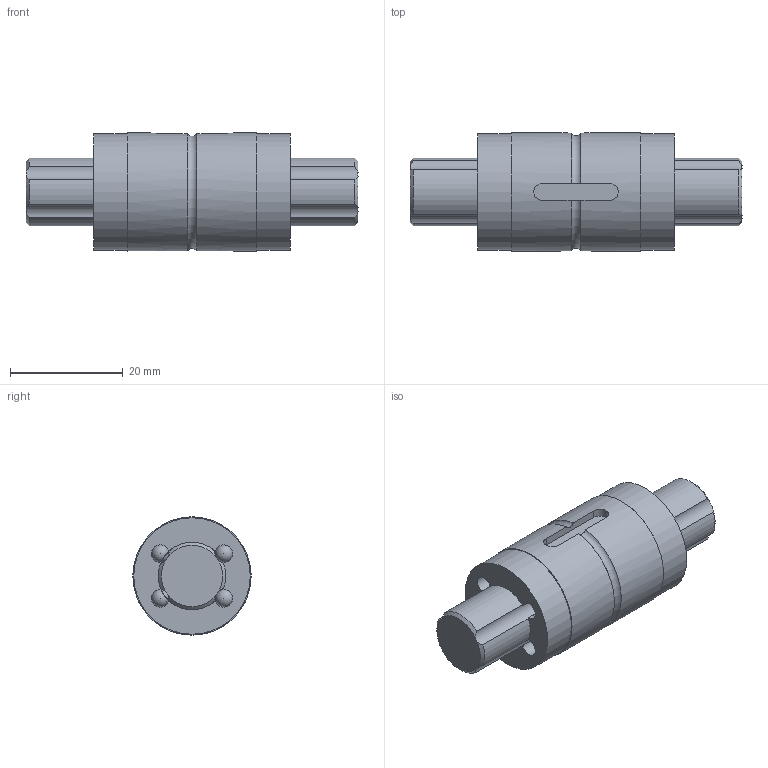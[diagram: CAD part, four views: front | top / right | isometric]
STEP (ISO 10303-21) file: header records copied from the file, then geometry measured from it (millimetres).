
FILE_DESCRIPTION(/* description */ ('Unknown'),/* implementation_level */ '2;1');
FILE_NAME(/* name */ 'TLT012-D-L60',/* time_stamp */ '2024-12-23T10:11:50+08:00',/* author */ ('Unknown'),/* organization */ ('Unknown'),/* preprocessor_version */ 'ST-DEVELOPER v18.102',/* originating_system */ 'Solid Edge',/* authorisation */ 'Unknown');
FILE_SCHEMA (('AUTOMOTIVE_DESIGN {1 0 10303 214 3 1 1}'));
Length unit declared in the file: millimetre
Products named in the file (3): TLT012-D-L60; TLT012-D-xxxx; TLT012
Assembly tree (2 placements, depth 2):
  TLT012-D-L60
    TLT012-D-xxxx
    TLT012
Bounding box: 59 x 21 x 21 mm (x, y, z)
Volume: 13715.1 mm3; surface area: 7858.7 mm2
Topology: 2 solids, 2 shells, 58 faces, 309 edges, 203 vertices
Faces by surface type: cylinder 20, sphere 20, plane 9, cone 8, torus 1
Full cylindrical faces by diameter (mm): 1.5 x1, 12 x1, 20.7 x2, 21 x2
Entity records: 3455 total; most frequent: CARTESIAN_POINT 1415, ORIENTED_EDGE 468, DIRECTION 320, EDGE_CURVE 234, VERTEX_POINT 164, AXIS2_PLACEMENT_3D 127, EDGE_LOOP 118, FACE_BOUND 118
